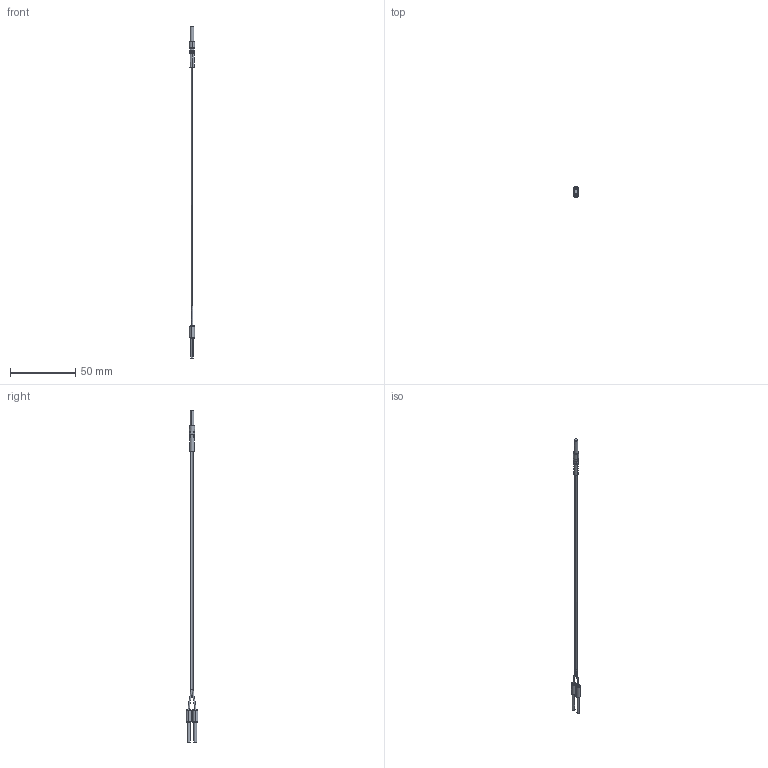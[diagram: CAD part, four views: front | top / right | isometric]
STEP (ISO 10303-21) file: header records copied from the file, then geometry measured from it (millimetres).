
FILE_DESCRIPTION((''),'2;1');
FILE_NAME('FU-RS310-A1','2023-08-29T14:16:28',('555'),(''),'CREO PARAMETRIC BY PTC INC, 2022073','CREO PARAMETRIC BY PTC INC, 2022073','');
FILE_SCHEMA(('CONFIG_CONTROL_DESIGN'));
Length unit declared in the file: millimetre
Products named in the file (1): FU-RS310-A1
Bounding box: 4.2 x 9 x 255 mm (x, y, z)
Volume: 970.8 mm3; surface area: 2144.5 mm2
Topology: 1 solids, 1 shells, 55 faces, 138 edges, 92 vertices
Faces by surface type: plane 21, cylinder 20, cone 10, bspline 4
Entity records: 2278 total; most frequent: CARTESIAN_POINT 901, DIRECTION 288, ORIENTED_EDGE 276, EDGE_CURVE 138, AXIS2_PLACEMENT_3D 123, VERTEX_POINT 92, CIRCLE 72, EDGE_LOOP 62
